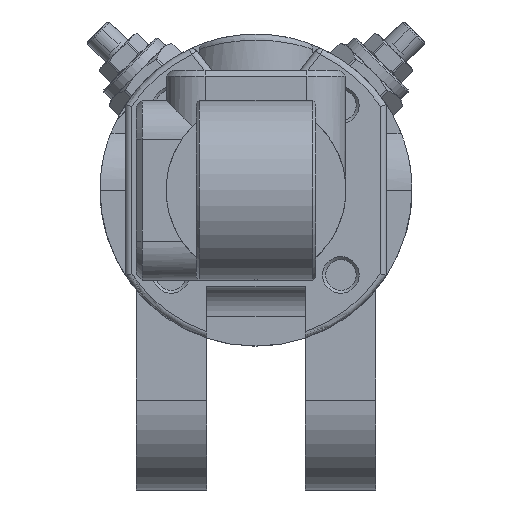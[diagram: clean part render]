
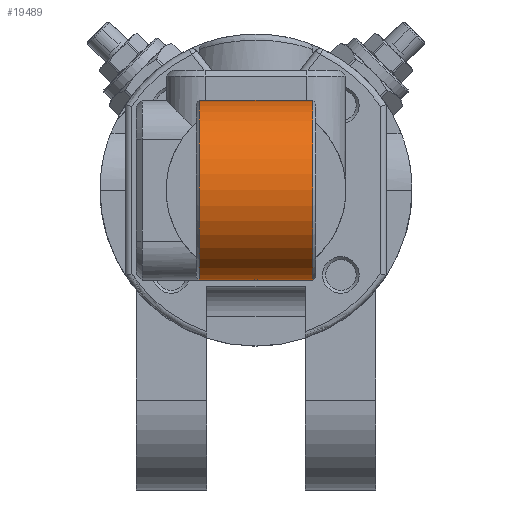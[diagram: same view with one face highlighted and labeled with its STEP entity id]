
A CAD part, front view. The second image highlights one B-rep face of the part: STEP entity #19489.
In plain terms, the highlighted cylindrical face has radius 15 mm (diameter 30 mm), a full revolution.
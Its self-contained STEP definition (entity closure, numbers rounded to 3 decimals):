
#19402=CARTESIAN_POINT('',(9.5,-53.5,0.));
#19403=VERTEX_POINT('',#19402);
#19404=CARTESIAN_POINT('',(9.5,-68.5,0.0));
#19405=DIRECTION('',(1.0,0.0,0.0));
#19406=DIRECTION('',(0.0,-1.0,0.0));
#19407=AXIS2_PLACEMENT_3D('',#19404,#19405,#19406);
#19408=CIRCLE('',#19407,15.0);
#19409=EDGE_CURVE('',#19403,#19403,#19408,.T.);
#19414=CARTESIAN_POINT('',(0.0,-68.5,0.0));
#19415=DIRECTION('',(1.0,0.0,0.0));
#19416=DIRECTION('',(0.0,-1.0,0.0));
#19417=AXIS2_PLACEMENT_3D('',#19414,#19415,#19416);
#19418=CYLINDRICAL_SURFACE('',#19417,15.0);
#19419=CARTESIAN_POINT('',(-9.5,-53.5,0.));
#19420=VERTEX_POINT('',#19419);
#19421=CARTESIAN_POINT('',(-9.5,-68.5,0.0));
#19422=DIRECTION('',(-1.0,0.0,0.0));
#19423=DIRECTION('',(0.0,-1.0,0.0));
#19424=AXIS2_PLACEMENT_3D('',#19421,#19422,#19423);
#19425=CIRCLE('',#19424,15.0);
#19426=EDGE_CURVE('',#19420,#19420,#19425,.T.);
#19427=ORIENTED_EDGE('',*,*,#19426,.F.);
#19428=EDGE_LOOP('',(#19427));
#19429=FACE_OUTER_BOUND('',#19428,.T.);
#19430=CARTESIAN_POINT('',(-9.,-59.5,-12.));
#19431=VERTEX_POINT('',#19430);
#19432=CARTESIAN_POINT('',(-9.0,-59.5,12.));
#19433=VERTEX_POINT('',#19432);
#19434=CARTESIAN_POINT('',(-9.0,-68.5,0.0));
#19435=DIRECTION('',(1.0,0.0,0.0));
#19436=DIRECTION('',(0.0,-1.0,0.0));
#19437=AXIS2_PLACEMENT_3D('',#19434,#19435,#19436);
#19438=CIRCLE('',#19437,15.0);
#19439=EDGE_CURVE('',#19431,#19433,#19438,.T.);
#19440=ORIENTED_EDGE('',*,*,#19439,.F.);
#19441=CARTESIAN_POINT('',(0.0,-68.5,-15.));
#19442=VERTEX_POINT('',#19441);
#19443=CARTESIAN_POINT('',(0.0,-68.5,0.0));
#19444=DIRECTION('',(0.707,0.707,0.0));
#19445=DIRECTION('',(0.707,-0.707,0.0));
#19446=AXIS2_PLACEMENT_3D('',#19443,#19444,#19445);
#19447=ELLIPSE('',#19446,21.213,15.);
#19448=EDGE_CURVE('',#19442,#19431,#19447,.T.);
#19449=ORIENTED_EDGE('',*,*,#19448,.F.);
#19450=CARTESIAN_POINT('',(9.0,-59.5,-12.));
#19451=VERTEX_POINT('',#19450);
#19452=CARTESIAN_POINT('',(0.0,-68.5,0.0));
#19453=DIRECTION('',(-0.707,0.707,0.0));
#19454=DIRECTION('',(-0.707,-0.707,0.0));
#19455=AXIS2_PLACEMENT_3D('',#19452,#19453,#19454);
#19456=ELLIPSE('',#19455,21.213,15.);
#19457=EDGE_CURVE('',#19451,#19442,#19456,.T.);
#19458=ORIENTED_EDGE('',*,*,#19457,.F.);
#19459=CARTESIAN_POINT('',(9.,-59.5,12.));
#19460=VERTEX_POINT('',#19459);
#19461=CARTESIAN_POINT('',(9.,-68.5,0.0));
#19462=DIRECTION('',(-1.0,0.0,0.0));
#19463=DIRECTION('',(0.0,-1.0,0.0));
#19464=AXIS2_PLACEMENT_3D('',#19461,#19462,#19463);
#19465=CIRCLE('',#19464,15.0);
#19466=EDGE_CURVE('',#19460,#19451,#19465,.T.);
#19467=ORIENTED_EDGE('',*,*,#19466,.F.);
#19468=CARTESIAN_POINT('',(0.0,-68.5,15.));
#19469=VERTEX_POINT('',#19468);
#19470=CARTESIAN_POINT('',(0.0,-68.5,0.0));
#19471=DIRECTION('',(-0.707,0.707,0.0));
#19472=DIRECTION('',(-0.707,-0.707,0.0));
#19473=AXIS2_PLACEMENT_3D('',#19470,#19471,#19472);
#19474=ELLIPSE('',#19473,21.213,15.);
#19475=EDGE_CURVE('',#19469,#19460,#19474,.T.);
#19476=ORIENTED_EDGE('',*,*,#19475,.F.);
#19477=CARTESIAN_POINT('',(0.0,-68.5,0.0));
#19478=DIRECTION('',(0.707,0.707,0.0));
#19479=DIRECTION('',(0.707,-0.707,0.0));
#19480=AXIS2_PLACEMENT_3D('',#19477,#19478,#19479);
#19481=ELLIPSE('',#19480,21.213,15.);
#19482=EDGE_CURVE('',#19433,#19469,#19481,.T.);
#19483=ORIENTED_EDGE('',*,*,#19482,.F.);
#19484=EDGE_LOOP('',(#19440,#19449,#19458,#19467,#19476,#19483));
#19485=FACE_BOUND('',#19484,.T.);
#19486=ORIENTED_EDGE('',*,*,#19409,.F.);
#19487=EDGE_LOOP('',(#19486));
#19488=FACE_BOUND('',#19487,.T.);
#19489=ADVANCED_FACE('',(#19429,#19485,#19488),#19418,.T.);
